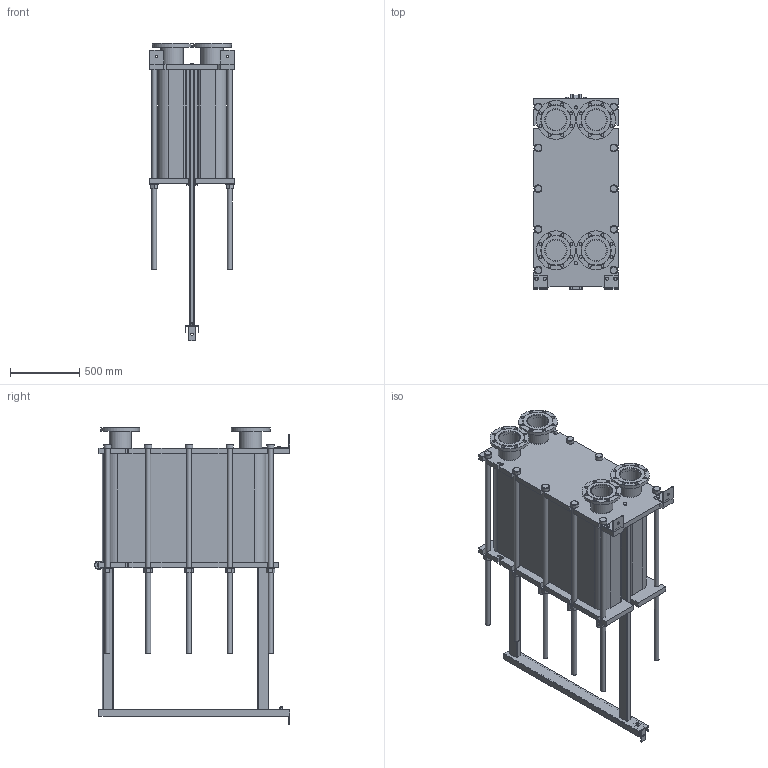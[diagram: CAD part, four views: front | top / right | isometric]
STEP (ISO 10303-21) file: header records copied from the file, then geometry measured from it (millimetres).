
FILE_DESCRIPTION(/* description */ (''),/* implementation_level */ '2;1');
FILE_NAME(/* name */ 'C:\Users\zhuro\Desktop\ENCO\TO\ЭН-041\ЭН-0,5-041-227-1.stp',/* time_stamp */ '2022-06-06T11:07:44+03:00',/* author */ ('zhuro'),/* organization */ (''),/* preprocessor_version */ 'ST-DEVELOPER v18.1',/* originating_system */ 'Autodesk Inventor 2022',/* authorisation */ '');
FILE_SCHEMA (('AUTOMOTIVE_DESIGN { 1 0 10303 214 3 1 1 }'));
Length unit declared in the file: millimetre
Products named in the file (1): ЭН-0,5-041-227-1
Bounding box: 610 x 1406.5 x 2142.5 mm (x, y, z)
Volume: 529870521.7 mm3; surface area: 11824757 mm2
Topology: 52 solids, 52 shells, 711 faces, 1696 edges, 1094 vertices
Faces by surface type: plane 487, cylinder 177, cone 41, torus 6
Full cylindrical faces by diameter (mm): 8 x4, 10 x2, 16 x8, 18 x3, 22 x32, 36 x24, 50 x1, 54 x10, 60 x12, 151 x4, 161 x8, 280 x4
Entity records: 22667 total; most frequent: CARTESIAN_POINT 5230, DIRECTION 3644, ORIENTED_EDGE 3392, EDGE_CURVE 1696, AXIS2_PLACEMENT_3D 1272, LINE 1100, VECTOR 1100, VERTEX_POINT 1094
